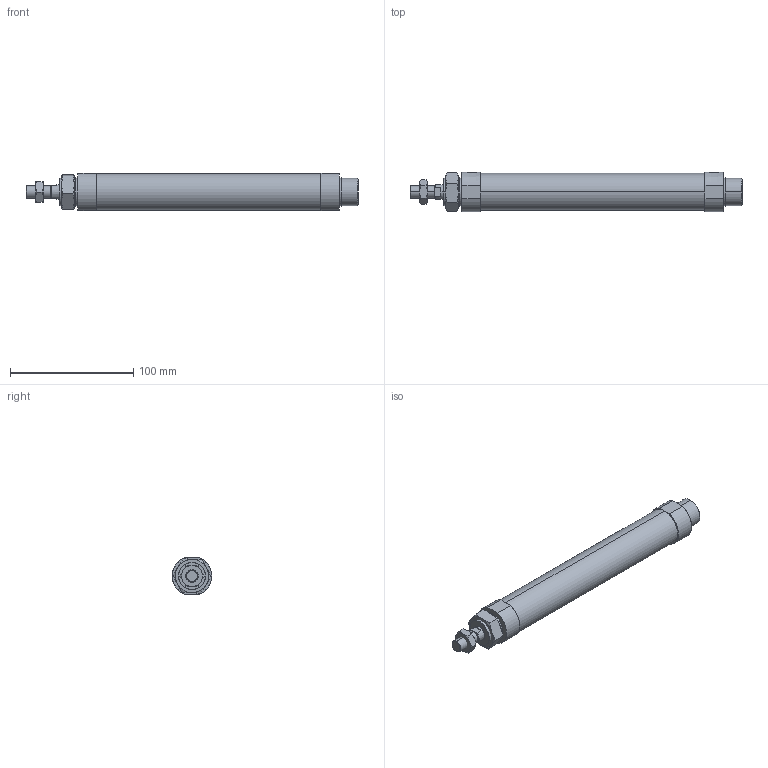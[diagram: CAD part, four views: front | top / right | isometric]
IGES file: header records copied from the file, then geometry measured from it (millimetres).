
Start section: SolidWorks IGES file using analytic representation for surfaces
Global section: file name: C:\Users\Toshiba\Desktop\J#2-25-150-N.IGS; native system: SolidWorks 2014; preprocessor: SolidWorks 2014; author: Toshiba; date: 160308.152745; units: millimetre
Bounding box: 269 x 32 x 30 mm (x, y, z)
Surface area: 29079.5 mm2 (no closed solid volume)
Topology: 0 solids, 0 shells, 97 faces, 1744 edges, 1740 vertices
Faces by surface type: bspline 61, revolution 36
